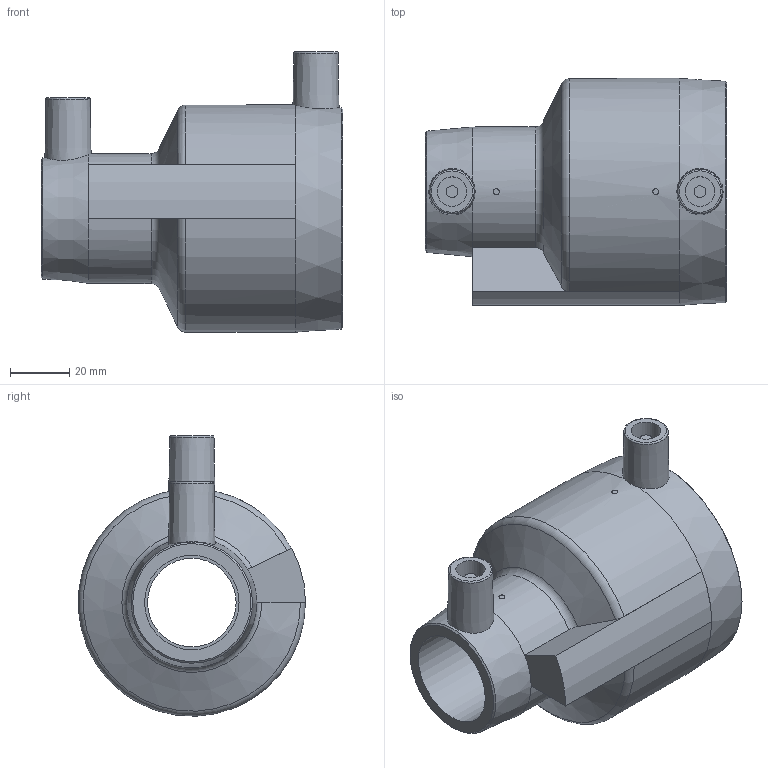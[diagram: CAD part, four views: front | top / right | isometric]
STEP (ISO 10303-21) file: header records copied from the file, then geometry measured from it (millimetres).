
FILE_DESCRIPTION(/* description */ ('Unknown'),/* implementation_level */ '2;1');
FILE_NAME(/* name */ 'REP063032C',/* time_stamp */ '2021-05-25T17:40:08+02:00',/* author */ ('Unknown'),/* organization */ ('Unknown'),/* preprocessor_version */ 'ST-DEVELOPER v16.7',/* originating_system */ 'Solid Edge',/* authorisation */ 'Unknown');
FILE_SCHEMA (('AUTOMOTIVE_DESIGN {1 0 10303 214 3 1 1}'));
Length unit declared in the file: millimetre
Products named in the file (1): REP063032C
Bounding box: 102 x 76.98 x 94.98 mm (x, y, z)
Volume: 140032.7 mm3; surface area: 45611.4 mm2
Topology: 1 solids, 1 shells, 39 faces, 85 edges, 55 vertices
Faces by surface type: plane 15, cylinder 12, cone 8, torus 4
Full cylindrical faces by diameter (mm): 2 x2, 4 x2, 10 x2, 30 x1, 32 x1, 63 x1
Entity records: 985 total; most frequent: CARTESIAN_POINT 207, DIRECTION 167, ORIENTED_EDGE 116, AXIS2_PLACEMENT_3D 78, EDGE_LOOP 66, FACE_BOUND 66, EDGE_CURVE 58, VERTEX_POINT 46
